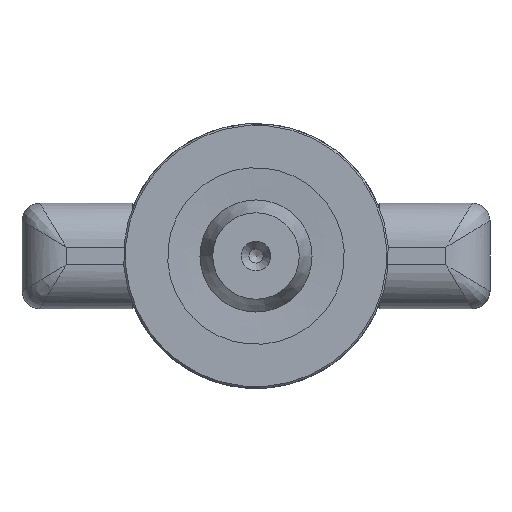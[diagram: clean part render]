
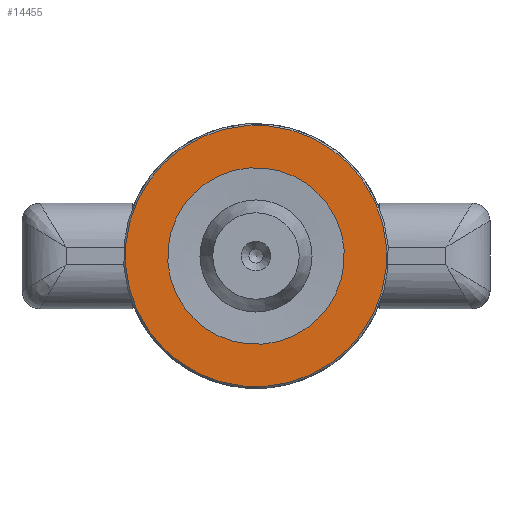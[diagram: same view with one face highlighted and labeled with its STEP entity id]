
A CAD part, front view. The second image highlights one B-rep face of the part: STEP entity #14455.
In plain terms, the highlighted planar face has unit normal (0, -1, 0) as drawn and (0, 0, -1) by its records, which use the part's own axes.
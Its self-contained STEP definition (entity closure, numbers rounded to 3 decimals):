
#342=FACE_BOUND('',#5401,.T.);
#743=PLANE('',#15432);
#4491=FACE_OUTER_BOUND('',#5400,.T.);
#5400=EDGE_LOOP('',(#13604));
#5401=EDGE_LOOP('',(#13605));
#5742=CIRCLE('',#15429,14.8);
#5744=CIRCLE('',#15433,10.);
#7156=VERTEX_POINT('',#45473);
#7158=VERTEX_POINT('',#45479);
#9310=EDGE_CURVE('',#7156,#7156,#5742,.T.);
#9312=EDGE_CURVE('',#7158,#7158,#5744,.T.);
#13604=ORIENTED_EDGE('',*,*,#9310,.F.);
#13605=ORIENTED_EDGE('',*,*,#9312,.F.);
#14455=ADVANCED_FACE('',(#4491,#342),#743,.F.);
#15429=AXIS2_PLACEMENT_3D('',#45474,#18128,#18129);
#15432=AXIS2_PLACEMENT_3D('',#45478,#18134,#18135);
#15433=AXIS2_PLACEMENT_3D('',#45480,#18136,#18137);
#18128=DIRECTION('center_axis',(0.,0.,1.));
#18129=DIRECTION('ref_axis',(-1.,0.,0.));
#18134=DIRECTION('center_axis',(0.,0.,1.));
#18135=DIRECTION('ref_axis',(1.,0.,0.));
#18136=DIRECTION('center_axis',(0.,0.,-1.));
#18137=DIRECTION('ref_axis',(-1.,0.,0.));
#45473=CARTESIAN_POINT('',(14.8,0.,0.));
#45474=CARTESIAN_POINT('Origin',(0.,0.,0.));
#45478=CARTESIAN_POINT('Origin',(0.,0.,0.));
#45479=CARTESIAN_POINT('',(10.,0.,0.));
#45480=CARTESIAN_POINT('Origin',(0.,0.,0.));
